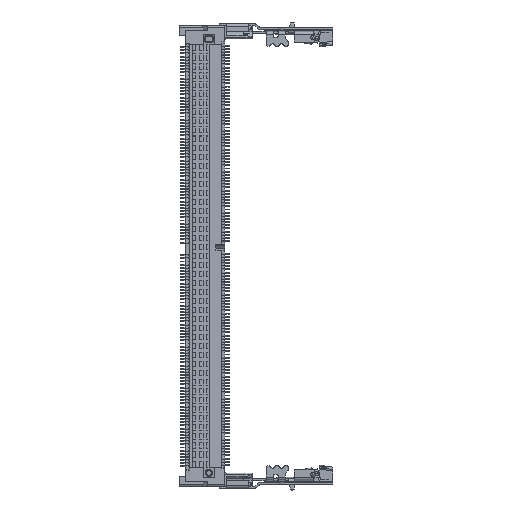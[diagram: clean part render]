
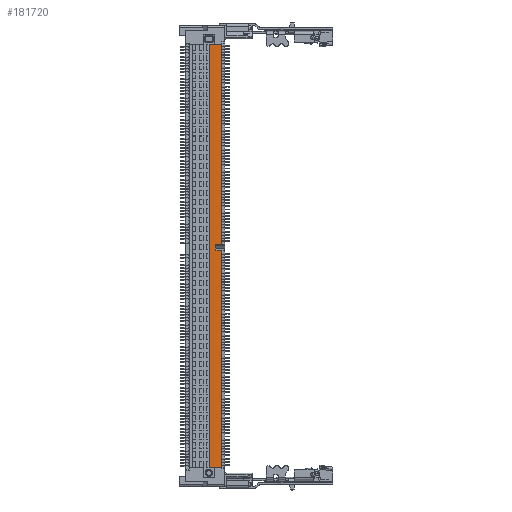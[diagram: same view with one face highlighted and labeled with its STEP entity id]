
A CAD part, top view. The second image highlights one B-rep face of the part: STEP entity #181720.
In plain terms, the highlighted planar face has unit normal (0, 0, 1).
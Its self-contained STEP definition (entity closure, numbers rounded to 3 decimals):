
#24890=DIRECTION('',(-1.,0.,0.));
#24891=VECTOR('',#24890,0.95);
#24892=CARTESIAN_POINT('',(3.25,0.9,2.025));
#24893=LINE('',#24892,#24891);
#24894=DIRECTION('',(0.,1.,0.));
#24895=VECTOR('',#24894,34.5);
#24896=CARTESIAN_POINT('',(3.25,-33.6,2.025));
#24897=LINE('',#24896,#24895);
#24898=DIRECTION('',(1.,0.,0.));
#24899=VECTOR('',#24898,0.9);
#24900=CARTESIAN_POINT('',(1.2,-33.6,2.025));
#24901=LINE('',#24900,#24899);
#24902=DIRECTION('',(0.,-1.,0.));
#24903=VECTOR('',#24902,67.2);
#24904=CARTESIAN_POINT('',(1.2,33.6,2.025));
#24905=LINE('',#24904,#24903);
#24906=DIRECTION('',(-1.,0.,0.));
#24907=VECTOR('',#24906,0.9);
#24908=CARTESIAN_POINT('',(2.1,33.6,2.025));
#24909=LINE('',#24908,#24907);
#24910=DIRECTION('',(-1.,0.,0.));
#24911=VECTOR('',#24910,1.15);
#24912=CARTESIAN_POINT('',(3.25,33.6,2.025));
#24913=LINE('',#24912,#24911);
#24914=DIRECTION('',(0.,1.,0.));
#24915=VECTOR('',#24914,31.75);
#24916=CARTESIAN_POINT('',(3.25,1.85,2.025));
#24917=LINE('',#24916,#24915);
#24918=DIRECTION('',(1.,0.,0.));
#24919=VECTOR('',#24918,0.95);
#24920=CARTESIAN_POINT('',(2.3,1.85,2.025));
#24921=LINE('',#24920,#24919);
#24922=DIRECTION('',(0.,1.,0.));
#24923=VECTOR('',#24922,0.95);
#24924=CARTESIAN_POINT('',(2.3,0.9,2.025));
#24925=LINE('',#24924,#24923);
#43242=DIRECTION('',(-1.,0.,0.));
#43243=VECTOR('',#43242,1.15);
#43244=CARTESIAN_POINT('',(3.25,-33.6,2.025));
#43245=LINE('',#43244,#43243);
#119220=CARTESIAN_POINT('',(3.25,-33.6,2.025));
#119221=VERTEX_POINT('',#119220);
#119345=CARTESIAN_POINT('',(2.1,-33.6,2.025));
#119346=VERTEX_POINT('',#119345);
#119347=CARTESIAN_POINT('',(3.25,0.9,2.025));
#119348=VERTEX_POINT('',#119347);
#119415=CARTESIAN_POINT('',(3.25,33.6,2.025));
#119416=VERTEX_POINT('',#119415);
#119421=CARTESIAN_POINT('',(2.1,33.6,2.025));
#119422=VERTEX_POINT('',#119421);
#119543=CARTESIAN_POINT('',(3.25,1.85,2.025));
#119544=VERTEX_POINT('',#119543);
#119599=CARTESIAN_POINT('',(2.3,0.9,2.025));
#119600=VERTEX_POINT('',#119599);
#119646=CARTESIAN_POINT('',(1.2,33.6,2.025));
#119647=VERTEX_POINT('',#119646);
#119682=CARTESIAN_POINT('',(1.2,-33.6,2.025));
#119683=VERTEX_POINT('',#119682);
#119684=CARTESIAN_POINT('',(2.3,1.85,2.025));
#119685=VERTEX_POINT('',#119684);
#181695=CARTESIAN_POINT('',(-3.55,-36.55,2.025));
#181696=DIRECTION('',(0.,0.,1.));
#181697=DIRECTION('',(1.,0.,0.));
#181698=AXIS2_PLACEMENT_3D('',#181695,#181696,#181697);
#181699=PLANE('',#181698);
#181701=ORIENTED_EDGE('',*,*,#181700,.F.);
#181702=ORIENTED_EDGE('',*,*,#156891,.F.);
#181704=ORIENTED_EDGE('',*,*,#181703,.T.);
#181706=ORIENTED_EDGE('',*,*,#181705,.F.);
#181708=ORIENTED_EDGE('',*,*,#181707,.F.);
#181710=ORIENTED_EDGE('',*,*,#181709,.F.);
#181711=ORIENTED_EDGE('',*,*,#181686,.F.);
#181713=ORIENTED_EDGE('',*,*,#181712,.F.);
#181715=ORIENTED_EDGE('',*,*,#181714,.F.);
#181717=ORIENTED_EDGE('',*,*,#181716,.F.);
#181718=EDGE_LOOP('',(#181701,#181702,#181704,#181706,#181708,#181710,#181711,
#181713,#181715,#181717));
#181719=FACE_OUTER_BOUND('',#181718,.F.);
#156891=EDGE_CURVE('',#119221,#119348,#24897,.T.);
#181686=EDGE_CURVE('',#119416,#119422,#24913,.T.);
#181700=EDGE_CURVE('',#119348,#119600,#24893,.T.);
#181703=EDGE_CURVE('',#119221,#119346,#43245,.T.);
#181705=EDGE_CURVE('',#119683,#119346,#24901,.T.);
#181707=EDGE_CURVE('',#119647,#119683,#24905,.T.);
#181709=EDGE_CURVE('',#119422,#119647,#24909,.T.);
#181712=EDGE_CURVE('',#119544,#119416,#24917,.T.);
#181714=EDGE_CURVE('',#119685,#119544,#24921,.T.);
#181716=EDGE_CURVE('',#119600,#119685,#24925,.T.);
#181720=ADVANCED_FACE('',(#181719),#181699,.T.);
